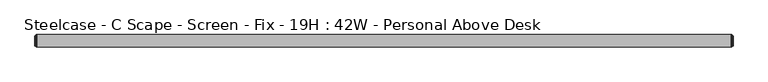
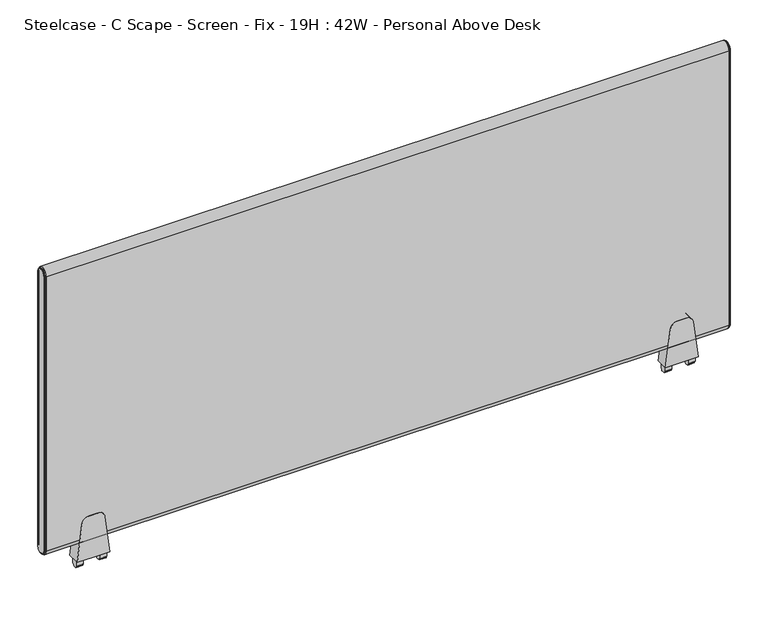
"""IFC4 building model written with IfcOpenShell, lengths in millimetres: furniture geometry, Steelcase - C Scape - Screen - Fix - 19H : 42W - Personal Above Desk."""

from ifc_helpers import new_model, si_unit, point, frame, frame_2d, origin, place, context, project, spatial, polyline, circle_curve, ellipse_curve, trimmed, segment, composite_curve, outline, extrude, source, transform, mapped, element, save
from ifc_brep_helpers import plane_surface, cylinder_surface, revolved_surface, advanced_brep


def steelcase_c_scape_screen_fix_19h_42w_personal_above_desk_0038b699(model_context):
    return source(origin(), model_context, "Body", "SolidModel", [
        extrude(outline(composite_curve([segment(polyline([(723.811112, 101.4730434), (784.1362421, 94.0661495)]), True, "CONTINUOUS"), segment(trimmed(circle_curve(frame_2d((782.8143718, 83.300233)), 10.8467645), [point((784.1362421, 94.0661495))], [point((793.6611362, 83.300233))], False, "CARTESIAN"), True, "CONTINUOUS"), segment(polyline([(793.6611362, 83.300233), (793.6611362, 76.2001674), (793.6611362, 69.1001018)]), True, "CONTINUOUS"), segment(trimmed(circle_curve(frame_2d((782.8143718, 69.1001018)), 10.8467645), [point((793.6611362, 69.1001018))], [point((784.1362421, 58.3341853))], False, "CARTESIAN"), True, "CONTINUOUS"), segment(polyline([(784.1362421, 58.3341853), (723.811112, 50.9272915), (723.811112, 76.2001674), (723.811112, 101.4730434)]), True, "CONTINUOUS")], self_intersect=False)), frame((0.0, -9.525, 0.0), z_axis=(0.0, 1.0, 0.0), x_axis=(0.0, 0.0, 1.0)), (0.0, 0.0, 1.0), 19.05),
        extrude(outline(polyline([(4.5465975, 723.811112), (4.5465975, 713.9051033), (4.0139265, 713.0186748), (2.9972008, 713.0186748), (2.9972008, 710.7834188), (0.0, 710.692), (-2.9972008, 710.7834188), (-2.9972008, 713.0186748), (-4.0139265, 713.0186748), (-4.5465975, 713.9051033), (-4.5465975, 723.811112), (0.0, 723.811112), (4.5465975, 723.811112)])), frame((88.9267162, 0.0, 0.0), z_axis=(1.0, 0.0, 0.0), x_axis=(0.0, 1.0, 0.0)), (0.0, 0.0, 1.0), 10.7813187),
        extrude(outline(polyline([(4.5465975, 723.811112), (4.5465975, 713.9051033), (4.0139265, 713.0186748), (2.9972008, 713.0186748), (2.9972008, 710.7834188), (0.0, 710.692), (-2.9972008, 710.7834188), (-2.9972008, 713.0186748), (-4.0139265, 713.0186748), (-4.5465975, 713.9051033), (-4.5465975, 723.811112), (0.0, 723.811112), (4.5465975, 723.811112)])), frame((52.6923, 0.0, 0.0), z_axis=(1.0, 0.0, 0.0), x_axis=(0.0, 1.0, 0.0)), (0.0, 0.0, 1.0), 10.7813187),
        extrude(outline(composite_curve([segment(polyline([(723.811112, 1015.1107132), (784.1362421, 1007.7038193)]), True, "CONTINUOUS"), segment(trimmed(circle_curve(frame_2d((782.8143718, 996.9379028)), 10.8467645), [point((784.1362421, 1007.7038193))], [point((793.6611362, 996.9379028))], False, "CARTESIAN"), True, "CONTINUOUS"), segment(polyline([(793.6611362, 996.9379028), (793.6611362, 989.8378372), (793.6611362, 982.7377716)]), True, "CONTINUOUS"), segment(trimmed(circle_curve(frame_2d((782.8143718, 982.7377716)), 10.8467645), [point((793.6611362, 982.7377716))], [point((784.1362421, 971.9718551))], False, "CARTESIAN"), True, "CONTINUOUS"), segment(polyline([(784.1362421, 971.9718551), (723.811112, 964.5649612), (723.811112, 989.8378372), (723.811112, 1015.1107132)]), True, "CONTINUOUS")], self_intersect=False)), frame((0.0, -9.525, 0.0), z_axis=(0.0, 1.0, 0.0), x_axis=(0.0, 0.0, 1.0)), (0.0, 0.0, 1.0), 19.05),
        extrude(outline(polyline([(4.5465975, 723.811112), (4.5465975, 713.9051033), (4.0139265, 713.0186748), (2.9972008, 713.0186748), (2.9972008, 710.7834188), (0.0, 710.692), (-2.9972008, 710.7834188), (-2.9972008, 713.0186748), (-4.0139265, 713.0186748), (-4.5465975, 713.9051033), (-4.5465975, 723.811112), (0.0, 723.811112), (4.5465975, 723.811112)])), frame((1002.564386, 0.0, 0.0), z_axis=(1.0, 0.0, 0.0), x_axis=(0.0, 1.0, 0.0)), (0.0, 0.0, 1.0), 10.7813187),
        extrude(outline(polyline([(4.5465975, 723.811112), (4.5465975, 713.9051033), (4.0139265, 713.0186748), (2.9972008, 713.0186748), (2.9972008, 710.7834188), (0.0, 710.692), (-2.9972008, 710.7834188), (-2.9972008, 713.0186748), (-4.0139265, 713.0186748), (-4.5465975, 713.9051033), (-4.5465975, 723.811112), (0.0, 723.811112), (4.5465975, 723.811112)])), frame((966.3299698, 0.0, 0.0), z_axis=(1.0, 0.0, 0.0), x_axis=(0.0, 1.0, 0.0)), (0.0, 0.0, 1.0), 10.7813187),
        advanced_brep(
        [(1063.2486613, -9.525, 1209.675), (1063.2486613, 9.525, 1209.675), (1063.2486613, 9.525, 758.825), (1063.2486613, -9.525, 758.825), (1066.0426613, 7.4929583, 1209.675), (1066.0426613, -7.4929583, 1209.675), (1066.0426613, -7.4929583, 758.825), (1066.0426613, 7.4929583, 758.825), (1065.5346545, -8.0009651, 1209.675), (1065.5346545, 8.0009651, 1209.675), (1064.2646613, 8.0009651, 1209.675), (1064.2646613, -8.0009651, 1209.675), (1064.2646613, -8.8204932, 1209.675), (1064.2646613, 8.8204932, 1209.675), (1064.2646613, -8.0009651, 758.825), (1065.5346545, -8.0009651, 758.825), (1064.2646613, -8.8204932, 758.825), (1064.2646613, 8.0009651, 758.825), (1065.5346545, 8.0009651, 758.825), (1064.2646613, 8.8204932, 758.825)],
        [
            (0, 1, circle_curve(frame((1063.2486613, 0.0, 1209.675), z_axis=(-1.0, 0.0, 0.0), x_axis=(0.0, 1.0, 0.0)), 9.525)),
            (1, 2),
            (2, 3, circle_curve(frame((1063.2486613, 0.0, 758.825), z_axis=(-1.0, 0.0, 0.0), x_axis=(0.0, -1.0, 0.0)), 9.525)),
            (3, 0),
            (4, 5, circle_curve(frame((1066.0426613, 0.0, 1209.675), z_axis=(1.0, 0.0, 0.0), x_axis=(0.0, 1.0, 0.0)), 7.4929583)),
            (5, 6),
            (6, 7, circle_curve(frame((1066.0426613, 0.0, 758.825), z_axis=(1.0, 0.0, 0.0), x_axis=(0.0, -1.0, 0.0)), 7.4929583)),
            (7, 4),
            (8, 9, circle_curve(frame((1065.5346545, 0.0, 1209.675), z_axis=(-1.0, 0.0, 0.0), x_axis=(0.0, 1.0, 0.0)), 8.0009651)),
            (9, 10),
            (10, 11, circle_curve(frame((1064.2646613, 0.0, 1209.675), z_axis=(1.0, 0.0, 0.0), x_axis=(0.0, 1.0, 0.0)), 8.0009651)),
            (11, 8),
            (8, 5, circle_curve(frame((1065.5346545, -7.4929583, 1209.675), z_axis=(0.0, 0.0, 1.0), x_axis=(0.0, -1.0, 0.0)), 0.5080068)),
            (4, 9, circle_curve(frame((1065.5346545, 7.4929583, 1209.675), z_axis=(0.0, 0.0, 1.0), x_axis=(0.0, 1.0, 0.0)), 0.5080068)),
            (12, 13, circle_curve(frame((1064.2646613, 0.0, 1209.675), z_axis=(-1.0, 0.0, 0.0), x_axis=(0.0, 1.0, 0.0)), 8.8204932)),
            (13, 1, circle_curve(frame((1063.1806211, 8.3420139, 1209.675), z_axis=(0.0, 0.0, 1.0), x_axis=(0.0, 1.0, 0.0)), 1.1849411)),
            (0, 12, circle_curve(frame((1063.1806211, -8.3420139, 1209.675), z_axis=(0.0, 0.0, 1.0), x_axis=(0.0, -1.0, 0.0)), 1.1849411)),
            (11, 14),
            (14, 15),
            (15, 8),
            (15, 6, circle_curve(frame((1065.5346545, -7.4929583, 758.825), z_axis=(0.0, 0.0, 1.0), x_axis=(0.0, -1.0, 0.0)), 0.5080068)),
            (3, 16, circle_curve(frame((1063.1806211, -8.3420139, 758.825), z_axis=(0.0, 0.0, 1.0), x_axis=(0.0, -1.0, 0.0)), 1.1849411)),
            (16, 12),
            (14, 17, circle_curve(frame((1064.2646613, 0.0, 758.825), z_axis=(1.0, 0.0, 0.0), x_axis=(0.0, -1.0, 0.0)), 8.0009651)),
            (17, 18),
            (18, 15, circle_curve(frame((1065.5346545, 0.0, 758.825), z_axis=(-1.0, 0.0, 0.0), x_axis=(0.0, -1.0, 0.0)), 8.0009651)),
            (18, 7, circle_curve(frame((1065.5346545, 7.4929583, 758.825), z_axis=(0.0, 0.0, -1.0), x_axis=(0.0, 1.0, 0.0)), 0.5080068)),
            (2, 19, circle_curve(frame((1063.1806211, 8.3420139, 758.825), z_axis=(0.0, 0.0, -1.0), x_axis=(0.0, 1.0, 0.0)), 1.1849411)),
            (19, 16, circle_curve(frame((1064.2646613, 0.0, 758.825), z_axis=(-1.0, 0.0, 0.0), x_axis=(0.0, -1.0, 0.0)), 8.8204932)),
            (9, 18),
            (17, 10),
            (13, 19),
        ],
        [
            plane_surface(frame((1063.2486613, -6.3509705, 1209.675), z_axis=(-1.0, 0.0, 0.0), x_axis=(0.0, 0.0, 1.0))),
            plane_surface(frame((1066.0426613, -6.3509705, 1209.675), z_axis=(1.0, 0.0, 0.0), x_axis=(0.0, 0.0, -1.0))),
            cylinder_surface(frame((1063.2486613, 0.0, 1209.675), z_axis=(1.0, 0.0, 0.0), x_axis=(0.0, 1.0, 0.0)), 8.0009651),
            revolved_surface(trimmed(ellipse_curve(frame((1065.5346545, 7.4929583, 1209.675), z_axis=(0.0, 0.0, -1.0), x_axis=(0.0, 1.0, 0.0)), 0.5080068, 0.5080068), [point((1065.5346545, 8.0009651, 1209.675))], [point((1066.0426613, 7.4929583, 1209.675))], True, "CARTESIAN"), (1063.2486613, 0.0, 1209.675), (1.0, 0.0, 0.0)),
            revolved_surface(trimmed(ellipse_curve(frame((1063.1806211, 8.3420139, 1209.675), z_axis=(0.0, 0.0, -1.0), x_axis=(0.0, 1.0, 0.0)), 1.1849411, 1.1849411), [point((1063.2486613, 9.525, 1209.675))], [point((1064.2646613, 8.8204932, 1209.675))], True, "CARTESIAN"), (1063.2486613, 0.0, 1209.675), (1.0, 0.0, 0.0)),
            plane_surface(frame((1064.2646613, -8.0009651, 1209.675), z_axis=(0.0, -1.0, 0.0), x_axis=(0.0, 0.0, -1.0))),
            cylinder_surface(frame((1065.5346545, -7.4929583, 1209.675), z_axis=(0.0, 0.0, 1.0), x_axis=(0.0, -1.0, 0.0)), 0.5080068),
            cylinder_surface(frame((1063.1806211, -8.3420139, 1209.675), z_axis=(0.0, 0.0, 1.0), x_axis=(0.0, -1.0, 0.0)), 1.1849411),
            cylinder_surface(frame((1063.2486613, 0.0, 758.825), z_axis=(1.0, 0.0, 0.0), x_axis=(0.0, -1.0, 0.0)), 8.0009651),
            revolved_surface(trimmed(ellipse_curve(frame((1065.5346545, -7.4929583, 758.825), z_axis=(0.0, 0.0, 1.0), x_axis=(0.0, -1.0, 0.0)), 0.5080068, 0.5080068), [point((1065.5346545, -8.0009651, 758.825))], [point((1066.0426613, -7.4929583, 758.825))], True, "CARTESIAN"), (1063.2486613, 0.0, 758.825), (1.0, 0.0, 0.0)),
            revolved_surface(trimmed(ellipse_curve(frame((1063.1806211, -8.3420139, 758.825), z_axis=(0.0, 0.0, 1.0), x_axis=(0.0, -1.0, 0.0)), 1.1849411, 1.1849411), [point((1063.2486613, -9.525, 758.825))], [point((1064.2646613, -8.8204932, 758.825))], True, "CARTESIAN"), (1063.2486613, 0.0, 758.825), (1.0, 0.0, 0.0)),
            plane_surface(frame((1064.2646613, 8.0009651, 758.825), z_axis=(0.0, 1.0, 0.0), x_axis=(0.0, 0.0, 1.0))),
            cylinder_surface(frame((1065.5346545, 7.4929583, 758.825), z_axis=(0.0, 0.0, -1.0), x_axis=(0.0, 1.0, 0.0)), 0.5080068),
            cylinder_surface(frame((1063.1806211, 8.3420139, 758.825), z_axis=(0.0, 0.0, -1.0), x_axis=(0.0, 1.0, 0.0)), 1.1849411),
            plane_surface(frame((1064.2646613, 8.8204932, 758.825), z_axis=(1.0, 0.0, 0.0), x_axis=(0.0, 0.0, 1.0))),
        ],
        [
            (0, [[1, 2, 3, 4]]),
            (1, [[5, 6, 7, 8]]),
            (2, [[9, 10, 11, 12]]),
            (3, [[-9, 13, -5, 14]]),
            (4, [[15, 16, -1, 17]]),
            (5, [[-12, 18, 19, 20]]),
            (6, [[-13, -20, 21, -6]]),
            (7, [[-17, -4, 22, 23]]),
            (8, [[-19, 24, 25, 26]]),
            (9, [[-21, -26, 27, -7]]),
            (10, [[-22, -3, 28, 29]]),
            (11, [[-10, 30, -25, 31]]),
            (12, [[-14, -8, -27, -30]]),
            (13, [[-16, 32, -28, -2]]),
            (14, [[-15, -23, -29, -32], [-11, -31, -24, -18]]),
        ],
    ),
        advanced_brep(
        [(2.7940155, 9.525, 1209.675), (2.7940155, -9.525, 1209.675), (2.7940155, -9.525, 758.825), (2.7940155, 9.525, 758.825), (0.0, -7.4929583, 1209.675), (0.0, 7.4929583, 1209.675), (0.0, 7.4929583, 758.825), (0.0, -7.4929583, 758.825), (1.778, 8.8204932, 1209.675), (1.778, -8.8204932, 1209.675), (0.5080068, -8.0009651, 1209.675), (0.5080068, 8.0009651, 1209.675), (1.778, -8.0009651, 1209.675), (1.778, 8.0009651, 1209.675), (1.778, -8.8204932, 758.825), (0.5080068, -8.0009651, 758.825), (1.778, -8.0009651, 758.825), (1.778, 8.8204932, 758.825), (0.5080068, 8.0009651, 758.825), (1.778, 8.0009651, 758.825)],
        [
            (0, 1, circle_curve(frame((2.7940155, 0.0, 1209.675), z_axis=(1.0, 0.0, 0.0), x_axis=(0.0, 1.0, 0.0)), 9.525)),
            (1, 2),
            (2, 3, circle_curve(frame((2.7940155, 0.0, 758.825), z_axis=(1.0, 0.0, 0.0), x_axis=(0.0, -1.0, 0.0)), 9.525)),
            (3, 0),
            (4, 5, circle_curve(frame((0.0, 0.0, 1209.675), z_axis=(-1.0, 0.0, 0.0), x_axis=(0.0, 1.0, 0.0)), 7.4929583)),
            (5, 6),
            (6, 7, circle_curve(frame((0.0, 0.0, 758.825), z_axis=(-1.0, 0.0, 0.0), x_axis=(0.0, -1.0, 0.0)), 7.4929583)),
            (7, 4),
            (0, 8, circle_curve(frame((2.8620402, 8.3420139, 1209.675), z_axis=(0.0, 0.0, 1.0), x_axis=(0.0, -1.0, 0.0)), 1.1849411)),
            (8, 9, circle_curve(frame((1.778, 0.0, 1209.675), z_axis=(1.0, 0.0, 0.0), x_axis=(0.0, 1.0, 0.0)), 8.8204932)),
            (9, 1, circle_curve(frame((2.8620402, -8.3420139, 1209.675), z_axis=(0.0, 0.0, 1.0), x_axis=(0.0, 1.0, 0.0)), 1.1849411)),
            (10, 11, circle_curve(frame((0.5080068, 0.0, 1209.675), z_axis=(-1.0, 0.0, 0.0), x_axis=(0.0, 1.0, 0.0)), 8.0009651)),
            (11, 5, circle_curve(frame((0.5080068, 7.4929583, 1209.675), z_axis=(0.0, 0.0, 1.0), x_axis=(0.0, -1.0, 0.0)), 0.5080068)),
            (4, 10, circle_curve(frame((0.5080068, -7.4929583, 1209.675), z_axis=(0.0, 0.0, 1.0), x_axis=(0.0, 1.0, 0.0)), 0.5080068)),
            (10, 12),
            (12, 13, circle_curve(frame((1.778, 0.0, 1209.675), z_axis=(-1.0, 0.0, 0.0), x_axis=(0.0, 1.0, 0.0)), 8.0009651)),
            (13, 11),
            (9, 14),
            (14, 2, circle_curve(frame((2.8620402, -8.3420139, 758.825), z_axis=(0.0, 0.0, 1.0), x_axis=(0.0, 1.0, 0.0)), 1.1849411)),
            (7, 15, circle_curve(frame((0.5080068, -7.4929583, 758.825), z_axis=(0.0, 0.0, 1.0), x_axis=(0.0, 1.0, 0.0)), 0.5080068)),
            (15, 10),
            (15, 16),
            (16, 12),
            (14, 17, circle_curve(frame((1.778, 0.0, 758.825), z_axis=(1.0, 0.0, 0.0), x_axis=(0.0, -1.0, 0.0)), 8.8204932)),
            (17, 3, circle_curve(frame((2.8620402, 8.3420139, 758.825), z_axis=(0.0, 0.0, -1.0), x_axis=(0.0, -1.0, 0.0)), 1.1849411)),
            (6, 18, circle_curve(frame((0.5080068, 7.4929583, 758.825), z_axis=(0.0, 0.0, -1.0), x_axis=(0.0, -1.0, 0.0)), 0.5080068)),
            (18, 15, circle_curve(frame((0.5080068, 0.0, 758.825), z_axis=(-1.0, 0.0, 0.0), x_axis=(0.0, -1.0, 0.0)), 8.0009651)),
            (18, 19),
            (19, 16, circle_curve(frame((1.778, 0.0, 758.825), z_axis=(-1.0, 0.0, 0.0), x_axis=(0.0, -1.0, 0.0)), 8.0009651)),
            (8, 17),
            (19, 13),
            (11, 18),
        ],
        [
            plane_surface(frame((2.7940155, -6.3509705, 1209.675), z_axis=(1.0, 0.0, 0.0), x_axis=(0.0, 0.0, -1.0))),
            plane_surface(frame((0.0, -6.3509705, 1209.675), z_axis=(-1.0, 0.0, 0.0), x_axis=(0.0, 0.0, 1.0))),
            revolved_surface(trimmed(ellipse_curve(frame((2.8620402, 8.3420139, 1209.675), z_axis=(0.0, 0.0, -1.0), x_axis=(0.0, -1.0, 0.0)), 1.1849411, 1.1849411), [point((1.778, 8.8204932, 1209.675))], [point((2.794, 9.525, 1209.675))], True, "CARTESIAN"), (2.794, 0.0, 1209.675), (1.0, 0.0, 0.0)),
            revolved_surface(trimmed(ellipse_curve(frame((0.5080068, 7.4929583, 1209.675), z_axis=(0.0, 0.0, -1.0), x_axis=(0.0, -1.0, 0.0)), 0.5080068, 0.5080068), [point((0.0, 7.4929583, 1209.675))], [point((0.5080068, 8.0009651, 1209.675))], True, "CARTESIAN"), (2.794, 0.0, 1209.675), (1.0, 0.0, 0.0)),
            cylinder_surface(frame((2.794, 0.0, 1209.675), z_axis=(1.0, 0.0, 0.0), x_axis=(0.0, 1.0, 0.0)), 8.0009651),
            cylinder_surface(frame((2.8620402, -8.3420139, 1209.675), z_axis=(0.0, 0.0, 1.0), x_axis=(0.0, 1.0, 0.0)), 1.1849411),
            cylinder_surface(frame((0.5080068, -7.4929583, 1209.675), z_axis=(0.0, 0.0, 1.0), x_axis=(0.0, 1.0, 0.0)), 0.5080068),
            plane_surface(frame((0.5080068, -8.0009651, 1209.675), z_axis=(0.0, -1.0, 0.0), x_axis=(0.0, 0.0, -1.0))),
            revolved_surface(trimmed(ellipse_curve(frame((2.8620402, -8.3420139, 758.825), z_axis=(0.0, 0.0, 1.0), x_axis=(0.0, 1.0, 0.0)), 1.1849411, 1.1849411), [point((1.778, -8.8204932, 758.825))], [point((2.794, -9.525, 758.825))], True, "CARTESIAN"), (2.794, 0.0, 758.825), (1.0, 0.0, 0.0)),
            revolved_surface(trimmed(ellipse_curve(frame((0.5080068, -7.4929583, 758.825), z_axis=(0.0, 0.0, 1.0), x_axis=(0.0, 1.0, 0.0)), 0.5080068, 0.5080068), [point((0.0, -7.4929583, 758.825))], [point((0.5080068, -8.0009651, 758.825))], True, "CARTESIAN"), (2.794, 0.0, 758.825), (1.0, 0.0, 0.0)),
            cylinder_surface(frame((2.794, 0.0, 758.825), z_axis=(1.0, 0.0, 0.0), x_axis=(0.0, -1.0, 0.0)), 8.0009651),
            plane_surface(frame((1.778, 8.0009651, 758.825), z_axis=(-1.0, 0.0, 0.0), x_axis=(0.0, 0.0, 1.0))),
            cylinder_surface(frame((2.8620402, 8.3420139, 758.825), z_axis=(0.0, 0.0, -1.0), x_axis=(0.0, -1.0, 0.0)), 1.1849411),
            cylinder_surface(frame((0.5080068, 7.4929583, 758.825), z_axis=(0.0, 0.0, -1.0), x_axis=(0.0, -1.0, 0.0)), 0.5080068),
            plane_surface(frame((0.5080068, 8.0009651, 758.825), z_axis=(0.0, 1.0, 0.0), x_axis=(0.0, 0.0, 1.0))),
        ],
        [
            (0, [[1, 2, 3, 4]]),
            (1, [[5, 6, 7, 8]]),
            (2, [[-1, 9, 10, 11]]),
            (3, [[12, 13, -5, 14]]),
            (4, [[-12, 15, 16, 17]]),
            (5, [[-11, 18, 19, -2]]),
            (6, [[-14, -8, 20, 21]]),
            (7, [[-15, -21, 22, 23]]),
            (8, [[-19, 24, 25, -3]]),
            (9, [[-20, -7, 26, 27]]),
            (10, [[-22, -27, 28, 29]]),
            (11, [[-10, 30, -24, -18], [-16, -23, -29, 31]]),
            (12, [[-9, -4, -25, -30]]),
            (13, [[-13, 32, -26, -6]]),
            (14, [[-17, -31, -28, -32]]),
        ],
    ),
        extrude(outline(composite_curve([segment(trimmed(circle_curve(frame_2d((0.0, 1209.675)), 9.525), [point((-9.525, 1209.675))], [point((9.525, 1209.675))], False, "CARTESIAN"), True, "CONTINUOUS"), segment(polyline([(9.525, 1209.675), (9.525, 758.825)]), True, "CONTINUOUS"), segment(trimmed(circle_curve(frame_2d((0.0, 758.825)), 9.525), [point((9.525, 758.825))], [point((-9.525, 758.825))], False, "CARTESIAN"), True, "CONTINUOUS"), segment(polyline([(-9.525, 758.825), (-9.525, 1209.675)]), True, "CONTINUOUS")], self_intersect=False)), frame((2.794, 0.0, 0.0), z_axis=(1.0, 0.0, 0.0), x_axis=(0.0, 1.0, 0.0)), (0.0, 0.0, 1.0), 1060.4546613),
    ])


if __name__ == "__main__":
    model = new_model("IFC4")
    model_context = context("Model", 3, world=origin())
    ifc_project = project(units=[si_unit("LENGTHUNIT", "METRE", prefix="MILLI")], contexts=[model_context])
    site = spatial("IfcSite", under=ifc_project)
    building = spatial("IfcBuilding", under=site)
    placement = place(None, origin())
    steelcase_c_scape_screen_fix_19h_42w_personal_above_desk_shape = steelcase_c_scape_screen_fix_19h_42w_personal_above_desk_0038b699(model_context)
    element("IfcFurniture", 1, ObjectType="Steelcase - C Scape - Screen - Fix - 19H : 42W - Personal Above Desk", at=placement, inside=building, context=model_context, shape_type="MappedRepresentation", body=[
        mapped(steelcase_c_scape_screen_fix_19h_42w_personal_above_desk_shape, transform((0.0, 0.0, 0.0), x_axis=(1.0, 0.0, 0.0), y_axis=(0.0, 1.0, 0.0), z_axis=(0.0, 0.0, 1.0))),
    ])
    save(model, "model.ifc")
